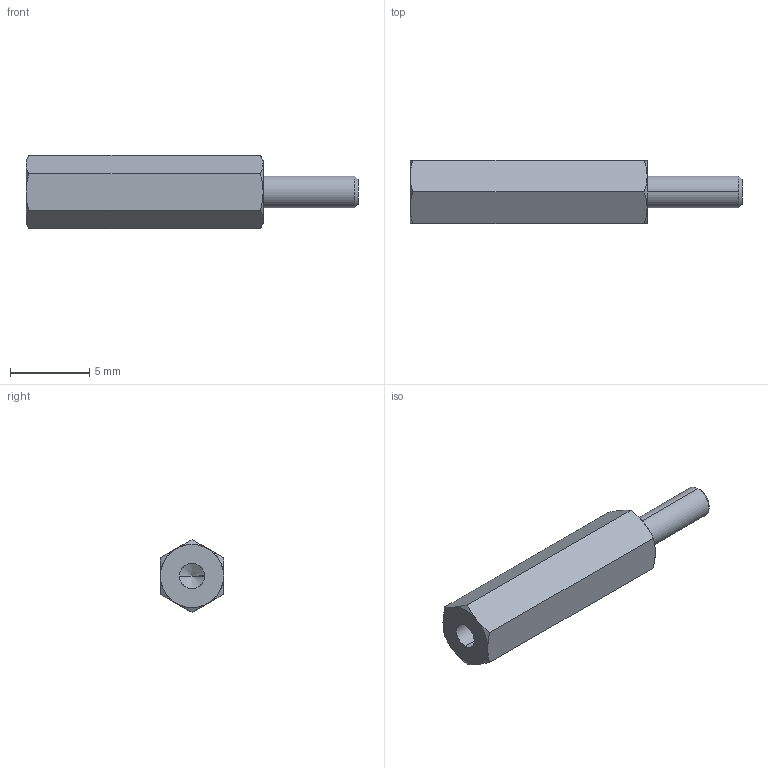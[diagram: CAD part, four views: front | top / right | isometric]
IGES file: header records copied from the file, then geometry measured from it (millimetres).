
Start section: SolidWorks IGES file using analytic representation for surfaces
Global section: file name: C:\Users\render1\Desktop\P0185_IGES\P0185.02-15.igs; native system: SolidWorks 2009; preprocessor: SolidWorks 2009; author: render1; date: 130627.111317; units: millimetre
Bounding box: 21 x 4 x 4.62 mm (x, y, z)
Surface area: 301.6 mm2 (no closed solid volume)
Topology: 0 solids, 0 shells, 29 faces, 292 edges, 290 vertices
Faces by surface type: revolution 20, bspline 9
